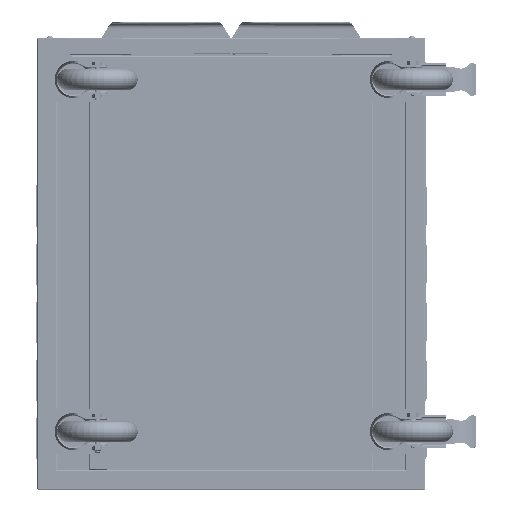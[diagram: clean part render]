
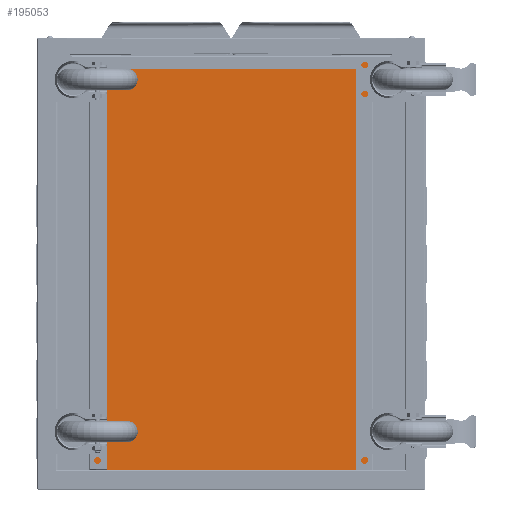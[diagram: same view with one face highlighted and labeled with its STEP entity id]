
A CAD part, front view. The second image highlights one B-rep face of the part: STEP entity #195053.
In plain terms, the highlighted planar face has unit normal (0, -1, 0).
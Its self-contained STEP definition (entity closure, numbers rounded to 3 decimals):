
#1530 = CARTESIAN_POINT ( 'NONE',  ( 269.75, -0.8, -320.15 ) ) ;
#19752 = EDGE_CURVE ( 'NONE', #268507, #162162, #207128, .T. ) ;
#48553 = ORIENTED_EDGE ( 'NONE', *, *, #19752, .F. ) ;
#52561 = LINE ( 'NONE', #158500, #242806 ) ;
#56335 = DIRECTION ( 'NONE',  ( 0., 0., -1. ) ) ;
#57717 = LINE ( 'NONE', #228137, #81437 ) ;
#74616 = CARTESIAN_POINT ( 'NONE',  ( 269.75, -0.8, 320.15 ) ) ;
#78968 = CARTESIAN_POINT ( 'NONE',  ( 0., -0.8, 0. ) ) ;
#81437 = VECTOR ( 'NONE', #56335, 1000. ) ;
#84789 = DIRECTION ( 'NONE',  ( 1., 0., 0. ) ) ;
#85629 = EDGE_CURVE ( 'NONE', #141324, #268507, #57717, .T. ) ;
#96951 = DIRECTION ( 'NONE',  ( -1., 0., 0. ) ) ;
#97659 = FACE_OUTER_BOUND ( 'NONE', #274127, .T. ) ;
#106728 = CARTESIAN_POINT ( 'NONE',  ( -269.75, -0.8, 320.15 ) ) ;
#137470 = VECTOR ( 'NONE', #84789, 1000. ) ;
#138250 = VECTOR ( 'NONE', #96951, 1000. ) ;
#141324 = VERTEX_POINT ( 'NONE', #74616 ) ;
#149824 = EDGE_CURVE ( 'NONE', #162162, #225017, #52561, .T. ) ;
#158500 = CARTESIAN_POINT ( 'NONE',  ( -269.75, -0.8, -320.15 ) ) ;
#161331 = DIRECTION ( 'NONE',  ( 0., 0., 1. ) ) ;
#162162 = VERTEX_POINT ( 'NONE', #174867 ) ;
#168413 = CARTESIAN_POINT ( 'NONE',  ( 269.75, -0.8, -320.15 ) ) ;
#174867 = CARTESIAN_POINT ( 'NONE',  ( -269.75, -0.8, -320.15 ) ) ;
#176358 = CARTESIAN_POINT ( 'NONE',  ( -269.75, -0.8, 320.15 ) ) ;
#181957 = ORIENTED_EDGE ( 'NONE', *, *, #149824, .F. ) ;
#187758 = PLANE ( 'NONE',  #233298 ) ;
#193611 = LINE ( 'NONE', #176358, #137470 ) ;
#195053 = ADVANCED_FACE ( 'NONE', ( #97659 ), #187758, .F. ) ;
#207128 = LINE ( 'NONE', #168413, #138250 ) ;
#224027 = EDGE_CURVE ( 'NONE', #225017, #141324, #193611, .T. ) ;
#225017 = VERTEX_POINT ( 'NONE', #106728 ) ;
#225128 = DIRECTION ( 'NONE',  ( 1., 0., 0. ) ) ;
#228137 = CARTESIAN_POINT ( 'NONE',  ( 269.75, -0.8, 320.15 ) ) ;
#233298 = AXIS2_PLACEMENT_3D ( 'NONE', #78968, #275019, #225128 ) ;
#235313 = ORIENTED_EDGE ( 'NONE', *, *, #224027, .F. ) ;
#242806 = VECTOR ( 'NONE', #161331, 1000. ) ;
#245095 = ORIENTED_EDGE ( 'NONE', *, *, #85629, .F. ) ;
#268507 = VERTEX_POINT ( 'NONE', #1530 ) ;
#274127 = EDGE_LOOP ( 'NONE', ( #181957, #48553, #245095, #235313 ) ) ;
#275019 = DIRECTION ( 'NONE',  ( 0., 1., 0. ) ) ;
